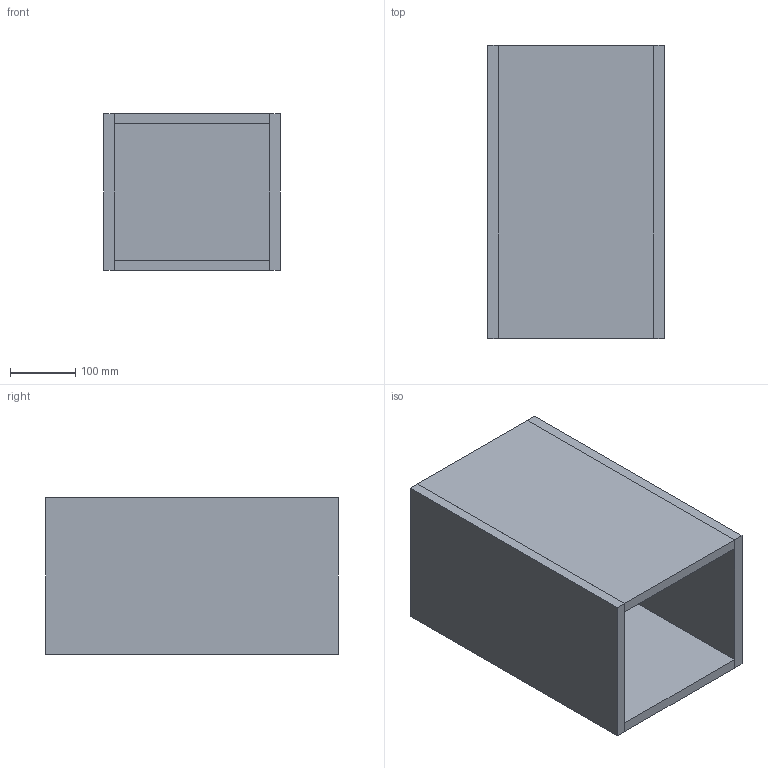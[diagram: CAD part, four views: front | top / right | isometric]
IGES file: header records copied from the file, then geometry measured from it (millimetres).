
Start section: Data from Parasolid IGES Translator 19.0.9, Copyright(c) 2006 Siemens PL M Software. All Rights Reserved.
Global section: file name: noorth-SI-H 24 D 47 W 27_8296.igs; native system: By Siemens PLM Incorporated; preprocessor: XPlus GENERIC/IGES 19.0.9; author: Noname; organization: Noname; date: 20200530.114442; units: metre
Bounding box: 270.01 x 448.06 x 240 mm (x, y, z)
Volume: 6994238.5 mm3; surface area: 1046079.6 mm2
Topology: 5 solids, 5 shells, 30 faces, 60 edges, 40 vertices
Faces by surface type: plane 30
